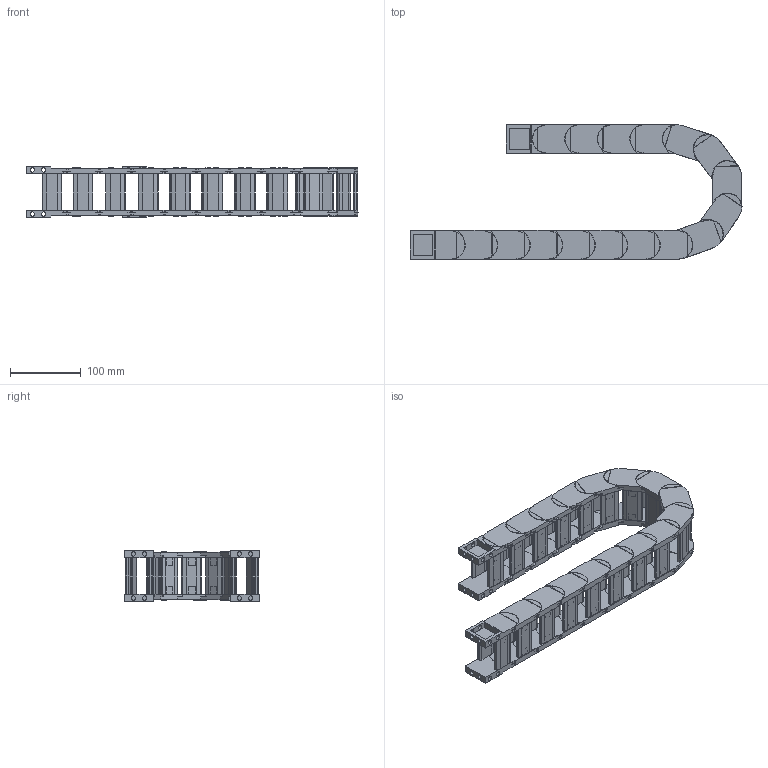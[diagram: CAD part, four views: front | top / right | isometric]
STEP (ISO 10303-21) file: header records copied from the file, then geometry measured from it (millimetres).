
FILE_DESCRIPTION((''),'2;1');
FILE_NAME('HD25-R75-ZPT_ASM','2022-09-04T16:29:13',('admin'),(''),'CREO PARAMETRIC BY PTC INC, 2021164','CREO PARAMETRIC BY PTC INC, 2021164','');
FILE_SCHEMA(('CONFIG_CONTROL_DESIGN','GEOMETRIC_VALIDATION_PROPERTIES_MIM'));
Length unit declared in the file: millimetre
Products named in the file (6): HD30; 25XL-QSYP-103; HD25_ASM; H25-T1; H25-T2; HD25-R75-ZPT_ASM
Assembly tree (22 placements, depth 3):
  HD25-R75-ZPT_ASM
    HD25_ASM  x16
      HD30
      25XL-QSYP-103
    H25-T1
    H25-T2
    25XL-QSYP-103  x2
Bounding box: 469.73 x 190.98 x 71.8 mm (x, y, z)
Volume: 807946.5 mm3; surface area: 440163.2 mm2
Topology: 72 solids, 104 shells, 1826 faces, 4627 edges, 3085 vertices
Faces by surface type: plane 1362, cylinder 400, torus 64
Entity records: 10733 total; most frequent: CARTESIAN_POINT 1522, DIRECTION 1468, ORIENTED_EDGE 1406, EDGE_CURVE 703, VECTOR 522, LINE 522, AXIS2_PLACEMENT_3D 473, VERTEX_POINT 469
